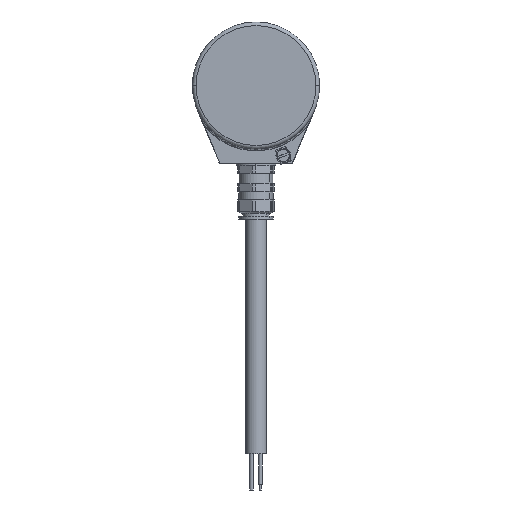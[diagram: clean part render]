
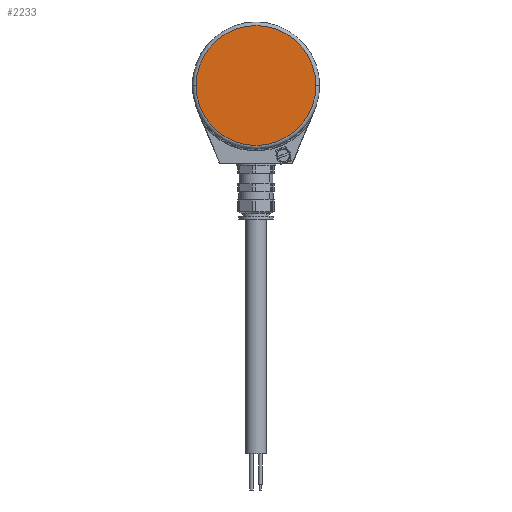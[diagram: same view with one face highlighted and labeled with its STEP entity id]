
A CAD part, left-side view. The second image highlights one B-rep face of the part: STEP entity #2233.
In plain terms, the highlighted planar face has unit normal (-1, 0, 0).
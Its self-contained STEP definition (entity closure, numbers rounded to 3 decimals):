
#2034 = EDGE_CURVE ( 'NONE', #2064, #2236, #8310, .T. ) ;
#2064 = VERTEX_POINT ( 'NONE', #8527 ) ;
#2078 = EDGE_LOOP ( 'NONE', ( #2086, #2087 ) ) ;
#2086 = ORIENTED_EDGE ( 'NONE', *, *, #2173, .T. ) ;
#2087 = ORIENTED_EDGE ( 'NONE', *, *, #2034, .T. ) ;
#2173 = EDGE_CURVE ( 'NONE', #2236, #2064, #8820, .T. ) ;
#2233 = ADVANCED_FACE ( 'NONE', ( #8860 ), #8846, .F. ) ;
#2236 = VERTEX_POINT ( 'NONE', #8845 ) ;
#8217 = DIRECTION ( 'NONE',  ( 0., -1., 0. ) ) ;
#8218 = DIRECTION ( 'NONE',  ( -1., 0., 0. ) ) ;
#8303 = CARTESIAN_POINT ( 'NONE',  ( -70.2, 0., 0. ) ) ;
#8304 = AXIS2_PLACEMENT_3D ( 'NONE', #8303, #8218, #8217 ) ;
#8310 = CIRCLE ( 'NONE', #8304, 33. ) ;
#8527 = CARTESIAN_POINT ( 'NONE',  ( -70.2, 33., 0. ) ) ;
#8816 = DIRECTION ( 'NONE',  ( 0., -1., 0. ) ) ;
#8817 = DIRECTION ( 'NONE',  ( -1., 0., 0. ) ) ;
#8818 = CARTESIAN_POINT ( 'NONE',  ( -70.2, 0., 0. ) ) ;
#8819 = AXIS2_PLACEMENT_3D ( 'NONE', #8818, #8817, #8816 ) ;
#8820 = CIRCLE ( 'NONE', #8819, 33. ) ;
#8841 = DIRECTION ( 'NONE',  ( 0., 1., 0. ) ) ;
#8842 = DIRECTION ( 'NONE',  ( 1., 0., 0. ) ) ;
#8843 = CARTESIAN_POINT ( 'NONE',  ( -70.2, 0., 0. ) ) ;
#8844 = AXIS2_PLACEMENT_3D ( 'NONE', #8843, #8842, #8841 ) ;
#8845 = CARTESIAN_POINT ( 'NONE',  ( -70.2, -33., 0. ) ) ;
#8846 = PLANE ( 'NONE',  #8844 ) ;
#8860 = FACE_OUTER_BOUND ( 'NONE', #2078, .T. ) ;
